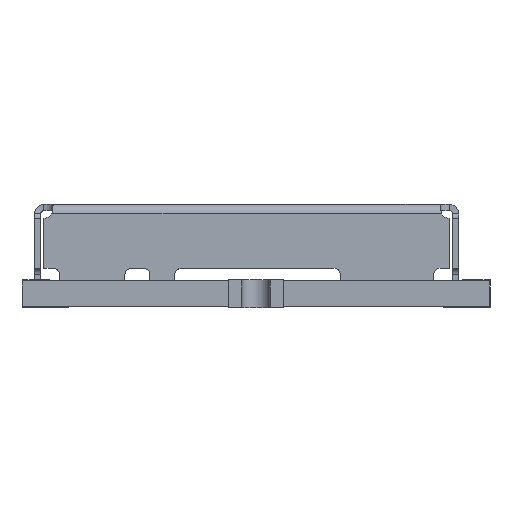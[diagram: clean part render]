
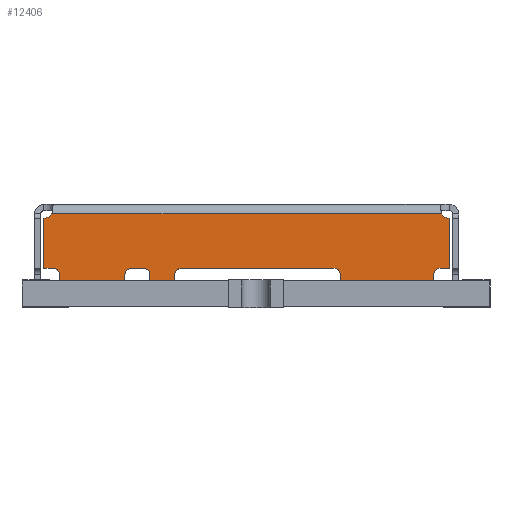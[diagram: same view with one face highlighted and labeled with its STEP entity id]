
A CAD part, left-side view. The second image highlights one B-rep face of the part: STEP entity #12406.
In plain terms, the highlighted planar face has unit normal (-1, 0, 0).
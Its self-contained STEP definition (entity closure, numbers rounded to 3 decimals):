
#140=CIRCLE('',#12851,0.2);
#142=CIRCLE('',#12855,0.2);
#144=CIRCLE('',#12859,0.2);
#146=CIRCLE('',#12863,0.2);
#148=CIRCLE('',#12867,0.2);
#150=CIRCLE('',#12871,0.2);
#198=CIRCLE('',#12973,0.3);
#200=CIRCLE('',#12977,0.3);
#1422=FACE_OUTER_BOUND('',#2105,.T.);
#2105=EDGE_LOOP('',(#9904,#9905,#9906,#9907,#9908,#9909,#9910,#9911,#9912,#9913,#9914,#9915,#9916,#9917,#9918,#9919,#9920,#9921,#9922,#9923,#9924,#9925,#9926,#9927));
#2929=LINE('',#20331,#4087);
#2934=LINE('',#20346,#4092);
#2938=LINE('',#20358,#4096);
#2943=LINE('',#20373,#4101);
#2947=LINE('',#20385,#4105);
#2952=LINE('',#20400,#4110);
#3075=LINE('',#20870,#4233);
#3076=LINE('',#20873,#4234);
#3077=LINE('',#20875,#4235);
#3078=LINE('',#20876,#4236);
#3079=LINE('',#20878,#4237);
#3080=LINE('',#20879,#4238);
#3081=LINE('',#20881,#4239);
#3082=LINE('',#20882,#4240);
#3083=LINE('',#20884,#4241);
#3084=LINE('',#20885,#4242);
#4087=VECTOR('',#14243,10.);
#4092=VECTOR('',#14256,10.);
#4096=VECTOR('',#14268,10.);
#4101=VECTOR('',#14281,10.);
#4105=VECTOR('',#14293,10.);
#4110=VECTOR('',#14306,10.);
#4233=VECTOR('',#14635,10.);
#4234=VECTOR('',#14638,10.);
#4235=VECTOR('',#14639,10.);
#4236=VECTOR('',#14640,10.);
#4237=VECTOR('',#14641,10.);
#4238=VECTOR('',#14642,10.);
#4239=VECTOR('',#14643,10.);
#4240=VECTOR('',#14644,10.);
#4241=VECTOR('',#14645,10.);
#4242=VECTOR('',#14646,10.);
#5352=VERTEX_POINT('',#20321);
#5353=VERTEX_POINT('',#20322);
#5356=VERTEX_POINT('',#20330);
#5358=VERTEX_POINT('',#20336);
#5359=VERTEX_POINT('',#20337);
#5362=VERTEX_POINT('',#20345);
#5364=VERTEX_POINT('',#20351);
#5366=VERTEX_POINT('',#20357);
#5368=VERTEX_POINT('',#20363);
#5369=VERTEX_POINT('',#20364);
#5372=VERTEX_POINT('',#20372);
#5374=VERTEX_POINT('',#20378);
#5376=VERTEX_POINT('',#20384);
#5378=VERTEX_POINT('',#20390);
#5379=VERTEX_POINT('',#20391);
#5382=VERTEX_POINT('',#20399);
#5497=VERTEX_POINT('',#20827);
#5498=VERTEX_POINT('',#20829);
#5502=VERTEX_POINT('',#20863);
#5503=VERTEX_POINT('',#20871);
#5504=VERTEX_POINT('',#20874);
#5505=VERTEX_POINT('',#20877);
#5506=VERTEX_POINT('',#20880);
#5507=VERTEX_POINT('',#20883);
#6836=EDGE_CURVE('',#5352,#5353,#140,.T.);
#6840=EDGE_CURVE('',#5356,#5353,#2929,.T.);
#6843=EDGE_CURVE('',#5358,#5359,#142,.T.);
#6847=EDGE_CURVE('',#5362,#5359,#2934,.T.);
#6850=EDGE_CURVE('',#5362,#5364,#144,.T.);
#6853=EDGE_CURVE('',#5366,#5364,#2938,.T.);
#6856=EDGE_CURVE('',#5368,#5369,#146,.T.);
#6860=EDGE_CURVE('',#5372,#5369,#2943,.T.);
#6863=EDGE_CURVE('',#5372,#5374,#148,.T.);
#6866=EDGE_CURVE('',#5376,#5374,#2947,.T.);
#6869=EDGE_CURVE('',#5378,#5379,#150,.T.);
#6873=EDGE_CURVE('',#5382,#5379,#2952,.T.);
#7050=EDGE_CURVE('',#5498,#5497,#198,.T.);
#7059=EDGE_CURVE('',#5497,#5502,#3075,.T.);
#7060=EDGE_CURVE('',#5502,#5503,#200,.T.);
#7061=EDGE_CURVE('',#5503,#5382,#3076,.T.);
#7062=EDGE_CURVE('',#5378,#5504,#3077,.T.);
#7063=EDGE_CURVE('',#5376,#5504,#3078,.T.);
#7064=EDGE_CURVE('',#5368,#5505,#3079,.T.);
#7065=EDGE_CURVE('',#5505,#5366,#3080,.T.);
#7066=EDGE_CURVE('',#5358,#5506,#3081,.T.);
#7067=EDGE_CURVE('',#5356,#5506,#3082,.T.);
#7068=EDGE_CURVE('',#5352,#5507,#3083,.T.);
#7069=EDGE_CURVE('',#5507,#5498,#3084,.T.);
#9904=ORIENTED_EDGE('',*,*,#7059,.T.);
#9905=ORIENTED_EDGE('',*,*,#7060,.T.);
#9906=ORIENTED_EDGE('',*,*,#7061,.T.);
#9907=ORIENTED_EDGE('',*,*,#6873,.T.);
#9908=ORIENTED_EDGE('',*,*,#6869,.F.);
#9909=ORIENTED_EDGE('',*,*,#7062,.T.);
#9910=ORIENTED_EDGE('',*,*,#7063,.F.);
#9911=ORIENTED_EDGE('',*,*,#6866,.T.);
#9912=ORIENTED_EDGE('',*,*,#6863,.F.);
#9913=ORIENTED_EDGE('',*,*,#6860,.T.);
#9914=ORIENTED_EDGE('',*,*,#6856,.F.);
#9915=ORIENTED_EDGE('',*,*,#7064,.T.);
#9916=ORIENTED_EDGE('',*,*,#7065,.T.);
#9917=ORIENTED_EDGE('',*,*,#6853,.T.);
#9918=ORIENTED_EDGE('',*,*,#6850,.F.);
#9919=ORIENTED_EDGE('',*,*,#6847,.T.);
#9920=ORIENTED_EDGE('',*,*,#6843,.F.);
#9921=ORIENTED_EDGE('',*,*,#7066,.T.);
#9922=ORIENTED_EDGE('',*,*,#7067,.F.);
#9923=ORIENTED_EDGE('',*,*,#6840,.T.);
#9924=ORIENTED_EDGE('',*,*,#6836,.F.);
#9925=ORIENTED_EDGE('',*,*,#7068,.T.);
#9926=ORIENTED_EDGE('',*,*,#7069,.T.);
#9927=ORIENTED_EDGE('',*,*,#7050,.T.);
#11186=PLANE('',#12976);
#12406=ADVANCED_FACE('',(#1422),#11186,.T.);
#12851=AXIS2_PLACEMENT_3D('',#20323,#14235,#14236);
#12855=AXIS2_PLACEMENT_3D('',#20338,#14248,#14249);
#12859=AXIS2_PLACEMENT_3D('',#20352,#14261,#14262);
#12863=AXIS2_PLACEMENT_3D('',#20365,#14273,#14274);
#12867=AXIS2_PLACEMENT_3D('',#20379,#14286,#14287);
#12871=AXIS2_PLACEMENT_3D('',#20392,#14298,#14299);
#12973=AXIS2_PLACEMENT_3D('',#20830,#14623,#14624);
#12976=AXIS2_PLACEMENT_3D('',#20869,#14633,#14634);
#12977=AXIS2_PLACEMENT_3D('',#20872,#14636,#14637);
#14235=DIRECTION('center_axis',(-1.,0.,0.));
#14236=DIRECTION('ref_axis',(0.,0.707,0.707));
#14243=DIRECTION('',(0.,0.,1.));
#14248=DIRECTION('center_axis',(-1.,0.,0.));
#14249=DIRECTION('ref_axis',(0.,-0.707,0.707));
#14256=DIRECTION('',(0.,-1.,0.));
#14261=DIRECTION('center_axis',(-1.,0.,0.));
#14262=DIRECTION('ref_axis',(0.,0.707,0.707));
#14268=DIRECTION('',(0.,0.,1.));
#14273=DIRECTION('center_axis',(-1.,0.,0.));
#14274=DIRECTION('ref_axis',(0.,-0.707,0.707));
#14281=DIRECTION('',(0.,-1.,0.));
#14286=DIRECTION('center_axis',(-1.,0.,0.));
#14287=DIRECTION('ref_axis',(0.,0.707,0.707));
#14293=DIRECTION('',(0.,0.,1.));
#14298=DIRECTION('center_axis',(-1.,0.,0.));
#14299=DIRECTION('ref_axis',(0.,-0.707,0.707));
#14306=DIRECTION('',(0.,-1.,0.));
#14623=DIRECTION('center_axis',(1.,0.,0.));
#14624=DIRECTION('ref_axis',(0.,0.,-1.));
#14633=DIRECTION('center_axis',(-1.,0.,0.));
#14634=DIRECTION('ref_axis',(0.,0.,1.));
#14635=DIRECTION('',(0.,1.,0.));
#14636=DIRECTION('center_axis',(1.,0.,0.));
#14637=DIRECTION('ref_axis',(0.,0.,-1.));
#14638=DIRECTION('',(0.,0.,-1.));
#14639=DIRECTION('',(0.,0.,-1.));
#14640=DIRECTION('',(0.,1.,0.));
#14641=DIRECTION('',(0.,0.,-1.));
#14642=DIRECTION('',(0.,-1.,0.));
#14643=DIRECTION('',(0.,0.,-1.));
#14644=DIRECTION('',(0.,1.,0.));
#14645=DIRECTION('',(0.,-1.,0.));
#14646=DIRECTION('',(0.,0.,1.));
#20321=CARTESIAN_POINT('',(-48.552,25.514,-4.341));
#20322=CARTESIAN_POINT('',(-48.552,25.714,-4.541));
#20323=CARTESIAN_POINT('Origin',(-48.552,25.514,-4.541));
#20330=CARTESIAN_POINT('',(-48.552,25.714,-4.741));
#20331=CARTESIAN_POINT('',(-48.552,25.714,-4.741));
#20336=CARTESIAN_POINT('',(-48.552,28.714,-4.541));
#20337=CARTESIAN_POINT('',(-48.552,28.914,-4.341));
#20338=CARTESIAN_POINT('Origin',(-48.552,28.914,-4.541));
#20345=CARTESIAN_POINT('',(-48.552,33.814,-4.341));
#20346=CARTESIAN_POINT('',(-48.552,38.214,-4.341));
#20351=CARTESIAN_POINT('',(-48.552,34.014,-4.541));
#20352=CARTESIAN_POINT('Origin',(-48.552,33.814,-4.541));
#20357=CARTESIAN_POINT('',(-48.552,34.014,-5.041));
#20358=CARTESIAN_POINT('',(-48.552,34.014,-5.041));
#20363=CARTESIAN_POINT('',(-48.552,34.814,-4.541));
#20364=CARTESIAN_POINT('',(-48.552,35.014,-4.341));
#20365=CARTESIAN_POINT('Origin',(-48.552,35.014,-4.541));
#20372=CARTESIAN_POINT('',(-48.552,35.414,-4.341));
#20373=CARTESIAN_POINT('',(-48.552,38.214,-4.341));
#20378=CARTESIAN_POINT('',(-48.552,35.614,-4.541));
#20379=CARTESIAN_POINT('Origin',(-48.552,35.414,-4.541));
#20384=CARTESIAN_POINT('',(-48.552,35.614,-4.741));
#20385=CARTESIAN_POINT('',(-48.552,35.614,-4.741));
#20390=CARTESIAN_POINT('',(-48.552,37.714,-4.541));
#20391=CARTESIAN_POINT('',(-48.552,37.914,-4.341));
#20392=CARTESIAN_POINT('Origin',(-48.552,37.914,-4.541));
#20399=CARTESIAN_POINT('',(-48.552,38.214,-4.341));
#20400=CARTESIAN_POINT('',(-48.552,38.214,-4.341));
#20827=CARTESIAN_POINT('',(-48.552,25.47,-2.59));
#20829=CARTESIAN_POINT('',(-48.552,25.214,-2.733));
#20830=CARTESIAN_POINT('Origin',(-48.552,25.214,-2.433));
#20863=CARTESIAN_POINT('',(-48.552,37.959,-2.59));
#20869=CARTESIAN_POINT('Origin',(-48.552,31.714,9.667));
#20870=CARTESIAN_POINT('',(-48.552,31.714,-2.59));
#20871=CARTESIAN_POINT('',(-48.552,38.214,-2.733));
#20872=CARTESIAN_POINT('Origin',(-48.552,38.214,-2.433));
#20873=CARTESIAN_POINT('',(-48.552,38.214,-2.433));
#20874=CARTESIAN_POINT('',(-48.552,37.714,-4.741));
#20875=CARTESIAN_POINT('',(-48.552,37.714,-4.341));
#20876=CARTESIAN_POINT('',(-48.552,31.564,-4.741));
#20877=CARTESIAN_POINT('',(-48.552,34.814,-5.041));
#20878=CARTESIAN_POINT('',(-48.552,34.814,-4.341));
#20879=CARTESIAN_POINT('',(-48.552,34.814,-5.041));
#20880=CARTESIAN_POINT('',(-48.552,28.714,-4.741));
#20881=CARTESIAN_POINT('',(-48.552,28.714,-4.341));
#20882=CARTESIAN_POINT('',(-48.552,31.564,-4.741));
#20883=CARTESIAN_POINT('',(-48.552,25.214,-4.341));
#20884=CARTESIAN_POINT('',(-48.552,38.214,-4.341));
#20885=CARTESIAN_POINT('',(-48.552,25.214,-4.341));
